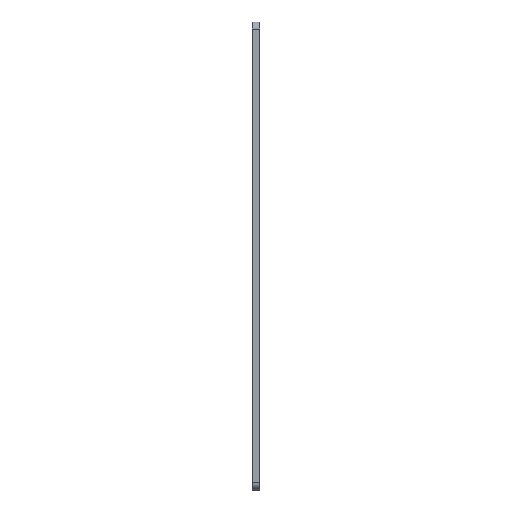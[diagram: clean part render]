
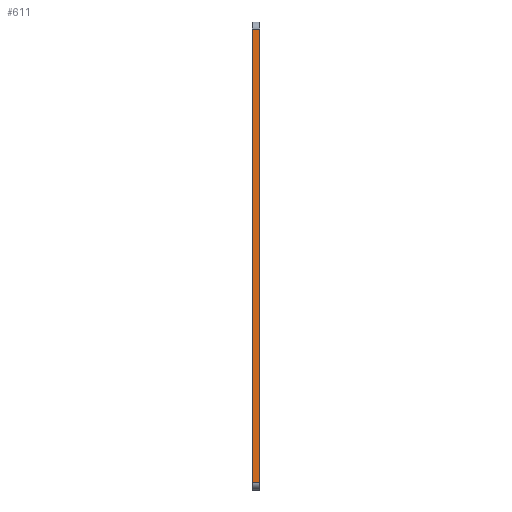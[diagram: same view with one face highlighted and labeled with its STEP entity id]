
A CAD part, left-side view. The second image highlights one B-rep face of the part: STEP entity #611.
In plain terms, the highlighted planar face has unit normal (-1, 0, 0).
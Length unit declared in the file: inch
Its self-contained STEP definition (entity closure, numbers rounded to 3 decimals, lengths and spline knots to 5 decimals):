
#10 = LINE ( 'NONE', #254, #1239 ) ;
#35 = CARTESIAN_POINT ( 'NONE',  ( 0., -0.125, 16.25 ) ) ;
#38 = CARTESIAN_POINT ( 'NONE',  ( 0., -0.125, 0. ) ) ;
#121 = DIRECTION ( 'NONE',  ( 1., 0., 0. ) ) ;
#166 = VERTEX_POINT ( 'NONE', #35 ) ;
#254 = CARTESIAN_POINT ( 'NONE',  ( 0., 0.125, 0. ) ) ;
#445 = LINE ( 'NONE', #825, #879 ) ;
#493 = FACE_OUTER_BOUND ( 'NONE', #799, .T. ) ;
#518 = LINE ( 'NONE', #38, #962 ) ;
#602 = PLANE ( 'NONE',  #708 ) ;
#605 = EDGE_CURVE ( 'NONE', #662, #1251, #10, .T. ) ;
#611 = ADVANCED_FACE ( 'NONE', ( #493 ), #602, .F. ) ;
#662 = VERTEX_POINT ( 'NONE', #754 ) ;
#692 = ORIENTED_EDGE ( 'NONE', *, *, #884, .T. ) ;
#708 = AXIS2_PLACEMENT_3D ( 'NONE', #970, #121, #1454 ) ;
#754 = CARTESIAN_POINT ( 'NONE',  ( 0., 0.125, 0.25 ) ) ;
#758 = CARTESIAN_POINT ( 'NONE',  ( 0., 0.125, 0.25 ) ) ;
#764 = DIRECTION ( 'NONE',  ( 0., 0., 1. ) ) ;
#788 = VERTEX_POINT ( 'NONE', #1004 ) ;
#799 = EDGE_LOOP ( 'NONE', ( #1015, #692, #1549, #1413 ) ) ;
#807 = VECTOR ( 'NONE', #1241, 39.37008 ) ;
#825 = CARTESIAN_POINT ( 'NONE',  ( 0., 0.125, 16.25 ) ) ;
#879 = VECTOR ( 'NONE', #928, 39.37008 ) ;
#884 = EDGE_CURVE ( 'NONE', #166, #1251, #445, .T. ) ;
#928 = DIRECTION ( 'NONE',  ( 0., 1., 0. ) ) ;
#962 = VECTOR ( 'NONE', #764, 39.37008 ) ;
#966 = CARTESIAN_POINT ( 'NONE',  ( 0., 0.125, 16.25 ) ) ;
#970 = CARTESIAN_POINT ( 'NONE',  ( 0., 0.125, 0. ) ) ;
#1004 = CARTESIAN_POINT ( 'NONE',  ( 0., -0.125, 0.25 ) ) ;
#1015 = ORIENTED_EDGE ( 'NONE', *, *, #1226, .T. ) ;
#1209 = DIRECTION ( 'NONE',  ( 0., 0., 1. ) ) ;
#1226 = EDGE_CURVE ( 'NONE', #788, #166, #518, .T. ) ;
#1236 = EDGE_CURVE ( 'NONE', #662, #788, #1248, .T. ) ;
#1239 = VECTOR ( 'NONE', #1209, 39.37008 ) ;
#1241 = DIRECTION ( 'NONE',  ( 0., -1., 0. ) ) ;
#1248 = LINE ( 'NONE', #758, #807 ) ;
#1251 = VERTEX_POINT ( 'NONE', #966 ) ;
#1413 = ORIENTED_EDGE ( 'NONE', *, *, #1236, .T. ) ;
#1454 = DIRECTION ( 'NONE',  ( 0., 0., -1. ) ) ;
#1549 = ORIENTED_EDGE ( 'NONE', *, *, #605, .F. ) ;
